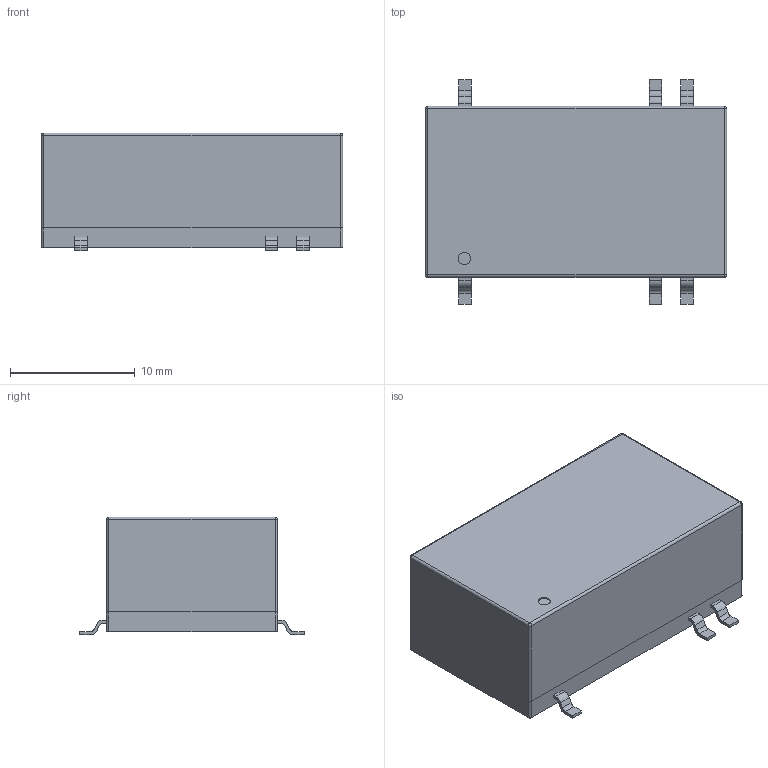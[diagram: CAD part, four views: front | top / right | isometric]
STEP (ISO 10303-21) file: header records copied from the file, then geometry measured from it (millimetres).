
FILE_DESCRIPTION(/* description */ (''),/* implementation_level */ '2;1');
FILE_NAME(/* name */ 'C:\Users\Calliope\Desktop\ISM02.stp',/* time_stamp */ '2017-11-10T14:34:20+08:00',/* author */ ('Calliope'),/* organization */ (''),/* preprocessor_version */ 'ST-DEVELOPER v15.6',/* originating_system */ 'Autodesk Inventor 2015',/* authorisation */ '');
FILE_SCHEMA (('AUTOMOTIVE_DESIGN { 1 0 10303 214 3 1 1 }'));
Length unit declared in the file: millimetre
Products named in the file (1): ISM02
Bounding box: 24.15 x 18 x 9.45 mm (x, y, z)
Volume: 3043.9 mm3; surface area: 1395.9 mm2
Topology: 1 solids, 1 shells, 110 faces, 281 edges, 178 vertices
Faces by surface type: plane 67, cylinder 39, sphere 4
Full cylindrical faces by diameter (mm): 1 x2, 1.5 x1
Entity records: 3284 total; most frequent: DIRECTION 570, CARTESIAN_POINT 563, ORIENTED_EDGE 548, EDGE_CURVE 274, LINE 200, VECTOR 200, AXIS2_PLACEMENT_3D 185, VERTEX_POINT 178
